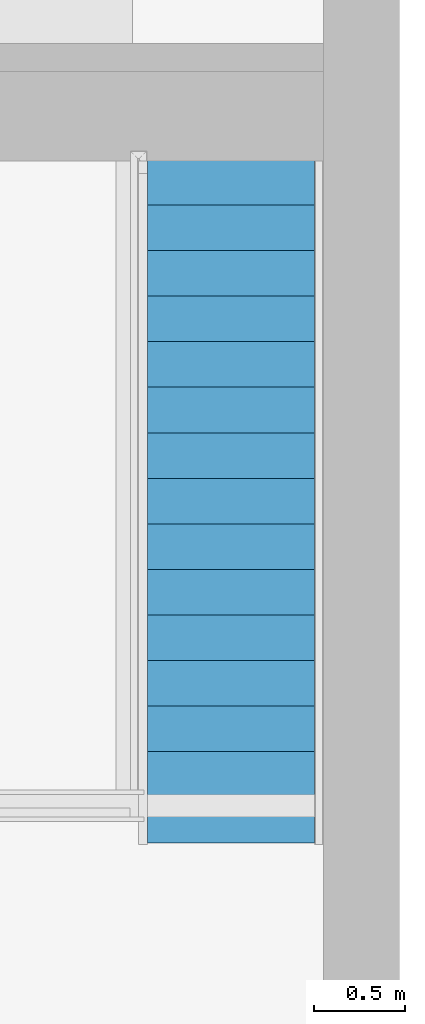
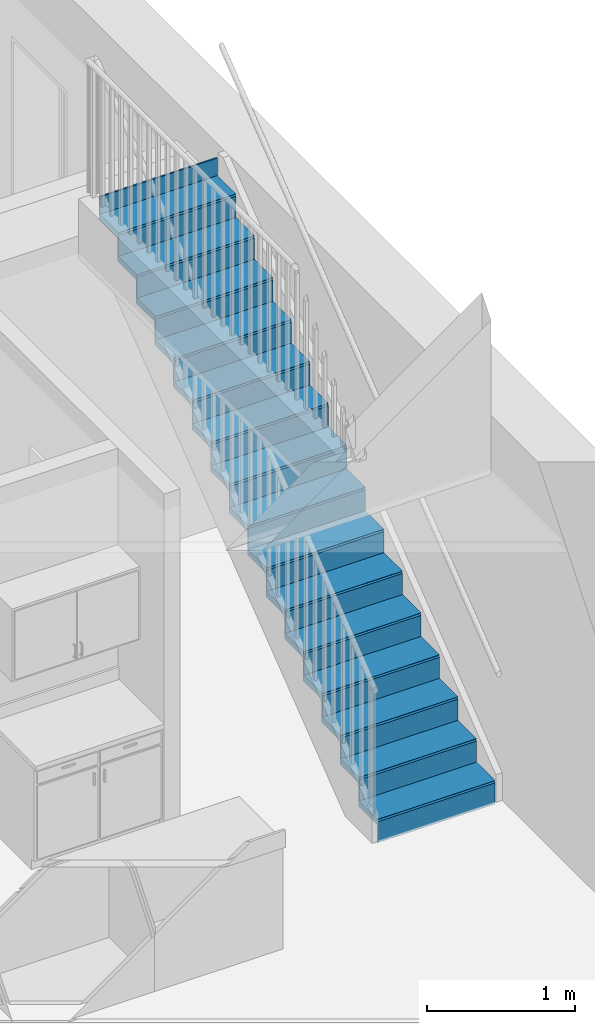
# One storey, part 4 of 18: 1 stair flight, 1 element without a shape of its own.
"""IFC4 building model written with IfcOpenShell, lengths in metres."""

from ifc_helpers import new_model, entity, si_unit, converted_unit, frame, frame_2d, origin, origin_2d_with_axis, place, context, project, spatial, polyline, circle_curve, parameter, trimmed, segment, composite_curve, rectangle, outline, extrude, element, aggregate, save


model = new_model("IFC4")

# Units and contexts
model_context = context("Model", 3, precision=1e-09, world=origin())
plan_context = context("Plan", 3, precision=1e-09, world=origin())
ifc_project = project(units=[si_unit("LENGTHUNIT", "METRE"), si_unit("AREAUNIT", "SQUARE_METRE"), si_unit("VOLUMEUNIT", "CUBIC_METRE"), converted_unit("PLANEANGLEUNIT", "DEGREE", entity("IfcRatioMeasure", 0.01745329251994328), si_unit("PLANEANGLEUNIT", "RADIAN"), dimensions=[0, 0, 0, 0, 0, 0, 0]), si_unit("TIMEUNIT", "SECOND")], contexts=[model_context, plan_context])

# Site, building, storey
site_placement = place(None, origin())
site = spatial("IfcSite", under=ifc_project, at=site_placement, Name="Default", CompositionType="ELEMENT")
building_placement = place(site_placement, origin())
building = spatial("IfcBuilding", under=site, at=building_placement, CompositionType="ELEMENT")
storey_placement = place(building_placement, origin())
storey = spatial("IfcBuildingStorey", under=building, at=storey_placement, Name="Level 1", CompositionType="ELEMENT", Elevation=0.0)

# Stair, stair flight
stair_placement = place(storey_placement, origin())
stair = element("IfcStair", 1, at=stair_placement, inside=storey, Name="Stair:Residential - 200mm Max Riser 250mm Tread", ObjectType="Stair:Residential - 200mm Max Riser 250mm Tread")
stair_flight_placement = place(storey_placement, origin())
stair_flight = element("IfcStairFlight", 2, at=stair_flight_placement, Name="Stair:Residential - 200mm Max Riser 250mm Tread:1", ObjectType="Stair:Residential - 200mm Max Riser 250mm Tread", NumberOfTreads=15, RiserHeight=0.6356627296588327, TreadLength=0.8202099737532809, context=model_context, shape_type="SweptSolid", body=[
    extrude(outline(composite_curve([segment(trimmed(circle_curve(frame_2d((-0.09999999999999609, 0.01399999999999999), x_axis=(1.0, 0.0)), 0.009999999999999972), [parameter(92.33515524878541)], [parameter(92.33515524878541)], True, "PARAMETER"), True, "CONTINUOUS"), segment(polyline([(-0.09999999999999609, 0.004000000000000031), (-0.09999999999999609, -0.02600000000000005)]), True, "CONTINUOUS"), segment(polyline([(-0.09999999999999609, -0.02600000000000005), (0.1500000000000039, -0.02600000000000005)]), True, "CONTINUOUS"), segment(polyline([(0.1500000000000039, -0.02600000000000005), (0.1500000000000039, 0.02399999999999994)]), True, "CONTINUOUS"), segment(polyline([(0.1500000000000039, 0.02399999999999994), (-0.09999999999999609, 0.02399999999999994)]), True, "CONTINUOUS")], self_intersect=False)), frame((7.418599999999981, -11.715, 0.1697500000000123), z_axis=(1.0, 0.0, 0.0), x_axis=(0.0, 1.0, 0.0)), (0.0, 0.0, 1.0), 0.914399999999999),
    extrude(outline(composite_curve([segment(trimmed(circle_curve(frame_2d((-0.09999999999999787, 0.01399999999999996), x_axis=(1.0, 0.0)), 0.009999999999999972), [parameter(92.33515524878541)], [parameter(92.33515524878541)], True, "PARAMETER"), True, "CONTINUOUS"), segment(polyline([(-0.09999999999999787, 0.004000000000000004), (-0.09999999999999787, -0.02600000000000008)]), True, "CONTINUOUS"), segment(polyline([(-0.09999999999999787, -0.02600000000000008), (0.1500000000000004, -0.02600000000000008)]), True, "CONTINUOUS"), segment(polyline([(0.1500000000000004, -0.02600000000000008), (0.1500000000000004, 0.02399999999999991)]), True, "CONTINUOUS"), segment(polyline([(0.1500000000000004, 0.02399999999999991), (-0.09999999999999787, 0.02399999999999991)]), True, "CONTINUOUS")], self_intersect=False)), frame((7.418599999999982, -11.465, 0.3635000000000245), z_axis=(1.0, 0.0, 0.0), x_axis=(0.0, 1.0, 0.0)), (0.0, 0.0, 1.0), 0.9144000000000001),
    extrude(outline(composite_curve([segment(trimmed(circle_curve(frame_2d((-0.1000000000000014, 0.0139999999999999), x_axis=(1.0, 0.0)), 0.009999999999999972), [parameter(92.33515524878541)], [parameter(92.33515524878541)], True, "PARAMETER"), True, "CONTINUOUS"), segment(polyline([(-0.09999999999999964, 0.004000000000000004), (-0.09999999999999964, -0.02600000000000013)]), True, "CONTINUOUS"), segment(polyline([(-0.09999999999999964, -0.02600000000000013), (0.1500000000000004, -0.02600000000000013)]), True, "CONTINUOUS"), segment(polyline([(0.1500000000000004, -0.02600000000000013), (0.1500000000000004, 0.02399999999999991)]), True, "CONTINUOUS"), segment(polyline([(0.1500000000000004, 0.02399999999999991), (-0.09999999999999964, 0.02399999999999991)]), True, "CONTINUOUS")], self_intersect=False)), frame((7.418599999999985, -11.215, 0.5572500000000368), z_axis=(1.0, 0.0, 0.0), x_axis=(0.0, 1.0, 0.0)), (0.0, 0.0, 1.0), 0.9144000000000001),
    extrude(outline(composite_curve([segment(trimmed(circle_curve(frame_2d((-0.1000000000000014, 0.01399999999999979), x_axis=(1.0, 0.0)), 0.009999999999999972), [parameter(92.33515524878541)], [parameter(92.33515524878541)], True, "PARAMETER"), True, "CONTINUOUS"), segment(polyline([(-0.09999999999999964, 0.003999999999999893), (-0.09999999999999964, -0.02600000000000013)]), True, "CONTINUOUS"), segment(polyline([(-0.1000000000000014, -0.02600000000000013), (0.1499999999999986, -0.02600000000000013)]), True, "CONTINUOUS"), segment(polyline([(0.1500000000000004, -0.02600000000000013), (0.1500000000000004, 0.0239999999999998)]), True, "CONTINUOUS"), segment(polyline([(0.1499999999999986, 0.0239999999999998), (-0.1000000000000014, 0.0239999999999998)]), True, "CONTINUOUS")], self_intersect=False)), frame((7.418599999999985, -10.965, 0.7510000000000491), z_axis=(1.0, 0.0, 0.0), x_axis=(0.0, 1.0, 0.0)), (0.0, 0.0, 1.0), 0.9144000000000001),
    extrude(outline(composite_curve([segment(trimmed(circle_curve(frame_2d((-0.09999999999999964, 0.01399999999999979), x_axis=(1.0, 0.0)), 0.009999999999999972), [parameter(92.33515524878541)], [parameter(92.33515524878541)], True, "PARAMETER"), True, "CONTINUOUS"), segment(polyline([(-0.09999999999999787, 0.003999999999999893), (-0.09999999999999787, -0.02600000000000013)]), True, "CONTINUOUS"), segment(polyline([(-0.1000000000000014, -0.02600000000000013), (0.1499999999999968, -0.02600000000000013)]), True, "CONTINUOUS"), segment(polyline([(0.1500000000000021, -0.02600000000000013), (0.1500000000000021, 0.0239999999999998)]), True, "CONTINUOUS"), segment(polyline([(0.1499999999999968, 0.0239999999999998), (-0.1000000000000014, 0.0239999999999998)]), True, "CONTINUOUS")], self_intersect=False)), frame((7.418599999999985, -10.715, 0.9447500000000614), z_axis=(1.0, 0.0, 0.0), x_axis=(0.0, 1.0, 0.0)), (0.0, 0.0, 1.0), 0.9144000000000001),
    extrude(outline(composite_curve([segment(trimmed(circle_curve(frame_2d((-0.09999999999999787, 0.01399999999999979), x_axis=(1.0, 0.0)), 0.009999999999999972), [parameter(92.33515524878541)], [parameter(92.33515524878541)], True, "PARAMETER"), True, "CONTINUOUS"), segment(polyline([(-0.09999999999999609, 0.003999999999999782), (-0.09999999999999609, -0.02600000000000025)]), True, "CONTINUOUS"), segment(polyline([(-0.1000000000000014, -0.02600000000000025), (0.1499999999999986, -0.02600000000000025)]), True, "CONTINUOUS"), segment(polyline([(0.1500000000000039, -0.02600000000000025), (0.1500000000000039, 0.0239999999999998)]), True, "CONTINUOUS"), segment(polyline([(0.1499999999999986, 0.0239999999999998), (-0.1000000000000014, 0.0239999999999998)]), True, "CONTINUOUS")], self_intersect=False)), frame((7.418599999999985, -10.465, 1.138500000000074), z_axis=(1.0, 0.0, 0.0), x_axis=(0.0, 1.0, 0.0)), (0.0, 0.0, 1.0), 0.9144000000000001),
    extrude(outline(composite_curve([segment(trimmed(circle_curve(frame_2d((-0.1000000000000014, 0.01399999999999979), x_axis=(1.0, 0.0)), 0.009999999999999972), [parameter(92.33515524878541)], [parameter(92.33515524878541)], True, "PARAMETER"), True, "CONTINUOUS"), segment(polyline([(-0.09999999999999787, 0.003999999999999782), (-0.09999999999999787, -0.02600000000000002)]), True, "CONTINUOUS"), segment(polyline([(-0.1000000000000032, -0.02600000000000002), (0.1499999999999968, -0.02600000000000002)]), True, "CONTINUOUS"), segment(polyline([(0.1500000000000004, -0.02600000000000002), (0.1500000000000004, 0.02400000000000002)]), True, "CONTINUOUS"), segment(polyline([(0.1499999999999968, 0.02400000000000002), (-0.1000000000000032, 0.02400000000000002)]), True, "CONTINUOUS")], self_intersect=False)), frame((7.418599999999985, -10.215, 1.332250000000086), z_axis=(1.0, 0.0, 0.0), x_axis=(0.0, 1.0, 0.0)), (0.0, 0.0, 1.0), 0.9144000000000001),
    extrude(outline(composite_curve([segment(trimmed(circle_curve(frame_2d((-0.09999999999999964, 0.01399999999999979), x_axis=(1.0, 0.0)), 0.009999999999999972), [parameter(92.33515524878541)], [parameter(92.33515524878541)], True, "PARAMETER"), True, "CONTINUOUS"), segment(polyline([(-0.09999999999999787, 0.003999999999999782), (-0.09999999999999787, -0.02600000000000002)]), True, "CONTINUOUS"), segment(polyline([(-0.1000000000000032, -0.02600000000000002), (0.149999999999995, -0.02600000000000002)]), True, "CONTINUOUS"), segment(polyline([(0.1500000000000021, -0.02600000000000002), (0.1500000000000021, 0.0239999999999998)]), True, "CONTINUOUS"), segment(polyline([(0.149999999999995, 0.0239999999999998), (-0.1000000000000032, 0.0239999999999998)]), True, "CONTINUOUS")], self_intersect=False)), frame((7.418599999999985, -9.965000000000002, 1.526000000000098), z_axis=(1.0, 0.0, 0.0), x_axis=(0.0, 1.0, 0.0)), (0.0, 0.0, 1.0), 0.9144000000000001),
    extrude(outline(composite_curve([segment(trimmed(circle_curve(frame_2d((-0.09999999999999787, 0.01399999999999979), x_axis=(1.0, 0.0)), 0.009999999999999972), [parameter(92.33515524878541)], [parameter(92.33515524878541)], True, "PARAMETER"), True, "CONTINUOUS"), segment(polyline([(-0.09999999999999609, 0.003999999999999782), (-0.09999999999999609, -0.02600000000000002)]), True, "CONTINUOUS"), segment(polyline([(-0.100000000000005, -0.02600000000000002), (0.149999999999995, -0.02600000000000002)]), True, "CONTINUOUS"), segment(polyline([(0.1500000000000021, -0.02600000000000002), (0.1500000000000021, 0.0239999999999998)]), True, "CONTINUOUS"), segment(polyline([(0.149999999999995, 0.0239999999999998), (-0.100000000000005, 0.0239999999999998)]), True, "CONTINUOUS")], self_intersect=False)), frame((7.418599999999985, -9.715000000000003, 1.71975000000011), z_axis=(1.0, 0.0, 0.0), x_axis=(0.0, 1.0, 0.0)), (0.0, 0.0, 1.0), 0.9144000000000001),
    extrude(outline(composite_curve([segment(trimmed(circle_curve(frame_2d((-0.09999999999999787, 0.01399999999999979), x_axis=(1.0, 0.0)), 0.009999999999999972), [parameter(92.33515524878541)], [parameter(92.33515524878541)], True, "PARAMETER"), True, "CONTINUOUS"), segment(polyline([(-0.09999999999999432, 0.004000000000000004), (-0.09999999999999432, -0.02600000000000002)]), True, "CONTINUOUS"), segment(polyline([(-0.1000000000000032, -0.02600000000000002), (0.1499999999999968, -0.02600000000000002)]), True, "CONTINUOUS"), segment(polyline([(0.1500000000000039, -0.02600000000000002), (0.1500000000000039, 0.02400000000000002)]), True, "CONTINUOUS"), segment(polyline([(0.1499999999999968, 0.02400000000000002), (-0.1000000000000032, 0.02400000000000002)]), True, "CONTINUOUS")], self_intersect=False)), frame((7.418599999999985, -9.465000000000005, 1.913500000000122), z_axis=(1.0, 0.0, 0.0), x_axis=(0.0, 1.0, 0.0)), (0.0, 0.0, 1.0), 0.9144000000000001),
    extrude(outline(composite_curve([segment(trimmed(circle_curve(frame_2d((-0.09999999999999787, 0.01399999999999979), x_axis=(1.0, 0.0)), 0.009999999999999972), [parameter(92.33515524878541)], [parameter(92.33515524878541)], True, "PARAMETER"), True, "CONTINUOUS"), segment(polyline([(-0.09999999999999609, 0.004000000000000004), (-0.09999999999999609, -0.0259999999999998)]), True, "CONTINUOUS"), segment(polyline([(-0.1000000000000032, -0.0259999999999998), (0.149999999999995, -0.0259999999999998)]), True, "CONTINUOUS"), segment(polyline([(0.1500000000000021, -0.0259999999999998), (0.1500000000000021, 0.02400000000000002)]), True, "CONTINUOUS"), segment(polyline([(0.149999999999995, 0.02400000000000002), (-0.1000000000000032, 0.02400000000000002)]), True, "CONTINUOUS")], self_intersect=False)), frame((7.418599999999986, -9.215000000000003, 2.107250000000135), z_axis=(1.0, 0.0, 0.0), x_axis=(0.0, 1.0, 0.0)), (0.0, 0.0, 1.0), 0.9144000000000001),
    extrude(outline(composite_curve([segment(trimmed(circle_curve(frame_2d((-0.09999999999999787, 0.01399999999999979), x_axis=(1.0, 0.0)), 0.009999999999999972), [parameter(92.33515524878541)], [parameter(92.33515524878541)], True, "PARAMETER"), True, "CONTINUOUS"), segment(polyline([(-0.09999999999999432, 0.004000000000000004), (-0.09999999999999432, -0.02600000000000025)]), True, "CONTINUOUS"), segment(polyline([(-0.1000000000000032, -0.02600000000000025), (0.1499999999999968, -0.02600000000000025)]), True, "CONTINUOUS"), segment(polyline([(0.1500000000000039, -0.02600000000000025), (0.1500000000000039, 0.02400000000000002)]), True, "CONTINUOUS"), segment(polyline([(0.1499999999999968, 0.02400000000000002), (-0.1000000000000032, 0.02400000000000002)]), True, "CONTINUOUS")], self_intersect=False)), frame((7.418599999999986, -8.965000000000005, 2.301000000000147), z_axis=(1.0, 0.0, 0.0), x_axis=(0.0, 1.0, 0.0)), (0.0, 0.0, 1.0), 0.9144000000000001),
    extrude(outline(composite_curve([segment(trimmed(circle_curve(frame_2d((-0.09999999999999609, 0.01399999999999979), x_axis=(1.0, 0.0)), 0.009999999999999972), [parameter(92.33515524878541)], [parameter(92.33515524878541)], True, "PARAMETER"), True, "CONTINUOUS"), segment(polyline([(-0.09999999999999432, 0.004000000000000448), (-0.09999999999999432, -0.0259999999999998)]), True, "CONTINUOUS"), segment(polyline([(-0.1000000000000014, -0.0259999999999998), (0.1499999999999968, -0.0259999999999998)]), True, "CONTINUOUS"), segment(polyline([(0.1500000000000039, -0.0259999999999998), (0.1500000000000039, 0.02400000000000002)]), True, "CONTINUOUS"), segment(polyline([(0.1499999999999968, 0.02400000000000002), (-0.1000000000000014, 0.02400000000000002)]), True, "CONTINUOUS")], self_intersect=False)), frame((7.418599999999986, -8.715000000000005, 2.494750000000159), z_axis=(1.0, 0.0, 0.0), x_axis=(0.0, 1.0, 0.0)), (0.0, 0.0, 1.0), 0.9144000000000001),
    extrude(outline(composite_curve([segment(trimmed(circle_curve(frame_2d((-0.09999999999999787, 0.01399999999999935), x_axis=(1.0, 0.0)), 0.009999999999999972), [parameter(92.33515524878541)], [parameter(92.33515524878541)], True, "PARAMETER"), True, "CONTINUOUS"), segment(polyline([(-0.09999999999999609, 0.004000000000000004), (-0.09999999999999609, -0.02600000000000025)]), True, "CONTINUOUS"), segment(polyline([(-0.1000000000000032, -0.02600000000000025), (0.1499999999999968, -0.02600000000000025)]), True, "CONTINUOUS"), segment(polyline([(0.1500000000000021, -0.02600000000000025), (0.1500000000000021, 0.02400000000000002)]), True, "CONTINUOUS"), segment(polyline([(0.1499999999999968, 0.02400000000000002), (-0.1000000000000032, 0.02400000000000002)]), True, "CONTINUOUS")], self_intersect=False)), frame((7.418599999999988, -8.465000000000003, 2.688500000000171), z_axis=(1.0, 0.0, 0.0), x_axis=(0.0, 1.0, 0.0)), (0.0, 0.0, 1.0), 0.9144000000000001),
    extrude(outline(composite_curve([segment(trimmed(circle_curve(frame_2d((-0.09999999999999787, 0.01399999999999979), x_axis=(1.0, 0.0)), 0.009999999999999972), [parameter(92.33515524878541)], [parameter(92.33515524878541)], True, "PARAMETER"), True, "CONTINUOUS"), segment(polyline([(-0.09999999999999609, 0.004000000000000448), (-0.09999999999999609, -0.0259999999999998)]), True, "CONTINUOUS"), segment(polyline([(-0.1000000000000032, -0.0259999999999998), (0.149999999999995, -0.0259999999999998)]), True, "CONTINUOUS"), segment(polyline([(0.1500000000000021, -0.0259999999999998), (0.1500000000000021, 0.02400000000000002)]), True, "CONTINUOUS"), segment(polyline([(0.149999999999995, 0.02400000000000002), (-0.1000000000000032, 0.02400000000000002)]), True, "CONTINUOUS")], self_intersect=False)), frame((7.418599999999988, -8.215000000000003, 2.882250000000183), z_axis=(1.0, 0.0, 0.0), x_axis=(0.0, 1.0, 0.0)), (0.0, 0.0, 1.0), 0.9144000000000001),
    extrude(rectangle(XDim=0.9144000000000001, YDim=0.01249999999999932, at=origin_2d_with_axis()), frame((7.875799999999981, -11.80875, 0.0), z_axis=(0.0, 0.0, 1.0), x_axis=(-1.0, 0.0, 0.0)), (0.0, 0.0, 1.0), 0.1437500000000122),
    extrude(rectangle(XDim=0.9144000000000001, YDim=0.01249999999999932, at=origin_2d_with_axis()), frame((7.875799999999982, -11.55875, 0.1437500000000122), z_axis=(0.0, 0.0, 1.0), x_axis=(-1.0, 0.0, 0.0)), (0.0, 0.0, 1.0), 0.1937500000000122),
    extrude(rectangle(XDim=0.9144000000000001, YDim=0.01249999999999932, at=origin_2d_with_axis()), frame((7.875799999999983, -11.30875, 0.3375000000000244), z_axis=(0.0, 0.0, 1.0), x_axis=(-1.0, 0.0, 0.0)), (0.0, 0.0, 1.0), 0.1937500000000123),
    extrude(rectangle(XDim=0.9144000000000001, YDim=0.01249999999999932, at=origin_2d_with_axis()), frame((7.875799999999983, -11.05875000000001, 0.5312500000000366), z_axis=(0.0, 0.0, 1.0), x_axis=(-1.0, 0.0, 0.0)), (0.0, 0.0, 1.0), 0.1937500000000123),
    extrude(rectangle(XDim=0.9144000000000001, YDim=0.01249999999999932, at=origin_2d_with_axis()), frame((7.875799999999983, -10.80875, 0.7250000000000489), z_axis=(0.0, 0.0, 1.0), x_axis=(-1.0, 0.0, 0.0)), (0.0, 0.0, 1.0), 0.1937500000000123),
    extrude(rectangle(XDim=0.9144000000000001, YDim=0.01249999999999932, at=origin_2d_with_axis()), frame((7.875799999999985, -10.55875, 0.918750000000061), z_axis=(0.0, 0.0, 1.0), x_axis=(-1.0, 0.0, 0.0)), (0.0, 0.0, 1.0), 0.1937500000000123),
    extrude(rectangle(XDim=0.9144000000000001, YDim=0.01249999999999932, at=origin_2d_with_axis()), frame((7.875799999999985, -10.30875, 1.112500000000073), z_axis=(0.0, 0.0, 1.0), x_axis=(-1.0, 0.0, 0.0)), (0.0, 0.0, 1.0), 0.1937500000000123),
    extrude(rectangle(XDim=0.9144000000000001, YDim=0.01249999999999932, at=origin_2d_with_axis()), frame((7.875799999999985, -10.05875, 1.306250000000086), z_axis=(0.0, 0.0, 1.0), x_axis=(-1.0, 0.0, 0.0)), (0.0, 0.0, 1.0), 0.1937500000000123),
    extrude(rectangle(XDim=0.9144000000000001, YDim=0.01249999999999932, at=origin_2d_with_axis()), frame((7.875799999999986, -9.808750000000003, 1.500000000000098), z_axis=(0.0, 0.0, 1.0), x_axis=(-1.0, 0.0, 0.0)), (0.0, 0.0, 1.0), 0.1937500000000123),
    extrude(rectangle(XDim=0.9144000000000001, YDim=0.01249999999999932, at=origin_2d_with_axis()), frame((7.875799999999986, -9.558750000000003, 1.69375000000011), z_axis=(0.0, 0.0, 1.0), x_axis=(-1.0, 0.0, 0.0)), (0.0, 0.0, 1.0), 0.1937500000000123),
    extrude(rectangle(XDim=0.9144000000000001, YDim=0.01249999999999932, at=origin_2d_with_axis()), frame((7.875799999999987, -9.308750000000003, 1.887500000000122), z_axis=(0.0, 0.0, 1.0), x_axis=(-1.0, 0.0, 0.0)), (0.0, 0.0, 1.0), 0.1937500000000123),
    extrude(rectangle(XDim=0.9144000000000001, YDim=0.01249999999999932, at=origin_2d_with_axis()), frame((7.875799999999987, -9.058750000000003, 2.081250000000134), z_axis=(0.0, 0.0, 1.0), x_axis=(-1.0, 0.0, 0.0)), (0.0, 0.0, 1.0), 0.1937500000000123),
    extrude(rectangle(XDim=0.9144000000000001, YDim=0.01249999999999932, at=origin_2d_with_axis()), frame((7.875799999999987, -8.808750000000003, 2.275000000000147), z_axis=(0.0, 0.0, 1.0), x_axis=(-1.0, 0.0, 0.0)), (0.0, 0.0, 1.0), 0.1937500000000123),
    extrude(rectangle(XDim=0.9144000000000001, YDim=0.01249999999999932, at=origin_2d_with_axis()), frame((7.875799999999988, -8.558750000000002, 2.468750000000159), z_axis=(0.0, 0.0, 1.0), x_axis=(-1.0, 0.0, 0.0)), (0.0, 0.0, 1.0), 0.1937500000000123),
    extrude(rectangle(XDim=0.9144000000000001, YDim=0.01250000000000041, at=origin_2d_with_axis()), frame((7.875799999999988, -8.058750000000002, 2.856250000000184), z_axis=(0.0, 0.0, 1.0), x_axis=(-1.0, 0.0, 0.0)), (0.0, 0.0, 1.0), 0.1937500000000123),
    extrude(rectangle(XDim=0.9144000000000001, YDim=0.01249999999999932, at=origin_2d_with_axis()), frame((7.875799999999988, -8.308750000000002, 2.662500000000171), z_axis=(0.0, 0.0, 1.0), x_axis=(-1.0, 0.0, 0.0)), (0.0, 0.0, 1.0), 0.1937500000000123),
])
aggregate(stair, [stair_flight])

save(model, "model.ifc")
